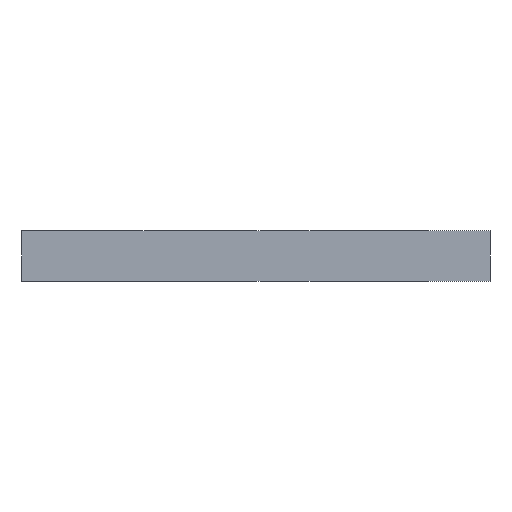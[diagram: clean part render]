
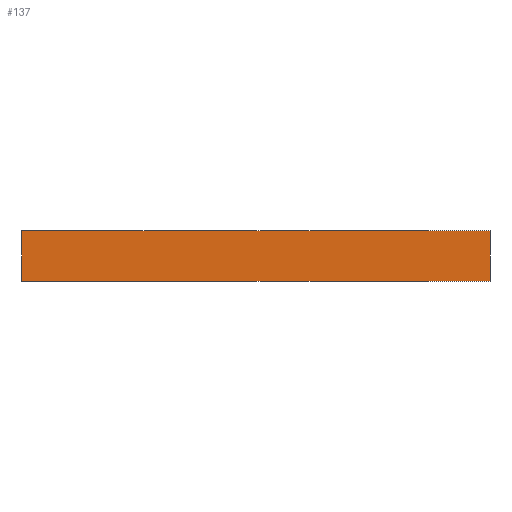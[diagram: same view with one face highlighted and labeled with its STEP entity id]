
A CAD part, front view. The second image highlights one B-rep face of the part: STEP entity #137.
In plain terms, the highlighted planar face has unit normal (0, -1, 0).
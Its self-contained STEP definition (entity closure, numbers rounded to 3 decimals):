
#21 = EDGE_CURVE('',#22,#24,#26,.T.);
#22 = VERTEX_POINT('',#23);
#23 = CARTESIAN_POINT('',(99.,-66.275,0.));
#24 = VERTEX_POINT('',#25);
#25 = CARTESIAN_POINT('',(99.,-66.275,3.));
#26 = SURFACE_CURVE('',#27,(#31,#43),.PCURVE_S1.);
#27 = LINE('',#28,#29);
#28 = CARTESIAN_POINT('',(99.,-66.275,0.));
#29 = VECTOR('',#30,1.);
#30 = DIRECTION('',(0.,0.,1.));
#31 = PCURVE('',#32,#37);
#32 = PLANE('',#33);
#33 = AXIS2_PLACEMENT_3D('',#34,#35,#36);
#34 = CARTESIAN_POINT('',(99.,-66.275,0.));
#35 = DIRECTION('',(1.,0.,0.));
#36 = DIRECTION('',(0.,0.,1.));
#37 = DEFINITIONAL_REPRESENTATION('',(#38),#42);
#38 = LINE('',#39,#40);
#39 = CARTESIAN_POINT('',(0.,0.));
#40 = VECTOR('',#41,1.);
#41 = DIRECTION('',(1.,0.));
#42 = ( GEOMETRIC_REPRESENTATION_CONTEXT(2) 
PARAMETRIC_REPRESENTATION_CONTEXT() REPRESENTATION_CONTEXT('2D SPACE',''
  ) );
#43 = PCURVE('',#44,#49);
#44 = PLANE('',#45);
#45 = AXIS2_PLACEMENT_3D('',#46,#47,#48);
#46 = CARTESIAN_POINT('',(99.,-66.275,0.));
#47 = DIRECTION('',(0.,1.,0.));
#48 = DIRECTION('',(0.,0.,1.));
#49 = DEFINITIONAL_REPRESENTATION('',(#50),#54);
#50 = LINE('',#51,#52);
#51 = CARTESIAN_POINT('',(0.,0.));
#52 = VECTOR('',#53,1.);
#53 = DIRECTION('',(1.,0.));
#54 = ( GEOMETRIC_REPRESENTATION_CONTEXT(2) 
PARAMETRIC_REPRESENTATION_CONTEXT() REPRESENTATION_CONTEXT('2D SPACE',''
  ) );
#72 = PLANE('',#73);
#73 = AXIS2_PLACEMENT_3D('',#74,#75,#76);
#74 = CARTESIAN_POINT('',(99.,-66.275,0.));
#75 = DIRECTION('',(0.,0.,1.));
#76 = DIRECTION('',(1.,0.,0.));
#126 = PLANE('',#127);
#127 = AXIS2_PLACEMENT_3D('',#128,#129,#130);
#128 = CARTESIAN_POINT('',(99.,-66.275,3.));
#129 = DIRECTION('',(0.,0.,1.));
#130 = DIRECTION('',(1.,0.,0.));
#137 = ADVANCED_FACE('',(#138),#44,.F.);
#138 = FACE_BOUND('',#139,.F.);
#139 = EDGE_LOOP('',(#140,#163,#164,#187));
#140 = ORIENTED_EDGE('',*,*,#141,.F.);
#141 = EDGE_CURVE('',#22,#142,#144,.T.);
#142 = VERTEX_POINT('',#143);
#143 = CARTESIAN_POINT('',(127.,-66.275,0.));
#144 = SURFACE_CURVE('',#145,(#149,#156),.PCURVE_S1.);
#145 = LINE('',#146,#147);
#146 = CARTESIAN_POINT('',(99.,-66.275,0.));
#147 = VECTOR('',#148,1.);
#148 = DIRECTION('',(1.,0.,0.));
#149 = PCURVE('',#44,#150);
#150 = DEFINITIONAL_REPRESENTATION('',(#151),#155);
#151 = LINE('',#152,#153);
#152 = CARTESIAN_POINT('',(0.,0.));
#153 = VECTOR('',#154,1.);
#154 = DIRECTION('',(0.,1.));
#155 = ( GEOMETRIC_REPRESENTATION_CONTEXT(2) 
PARAMETRIC_REPRESENTATION_CONTEXT() REPRESENTATION_CONTEXT('2D SPACE',''
  ) );
#156 = PCURVE('',#72,#157);
#157 = DEFINITIONAL_REPRESENTATION('',(#158),#162);
#158 = LINE('',#159,#160);
#159 = CARTESIAN_POINT('',(0.,0.));
#160 = VECTOR('',#161,1.);
#161 = DIRECTION('',(1.,0.));
#162 = ( GEOMETRIC_REPRESENTATION_CONTEXT(2) 
PARAMETRIC_REPRESENTATION_CONTEXT() REPRESENTATION_CONTEXT('2D SPACE',''
  ) );
#163 = ORIENTED_EDGE('',*,*,#21,.T.);
#164 = ORIENTED_EDGE('',*,*,#165,.T.);
#165 = EDGE_CURVE('',#24,#166,#168,.T.);
#166 = VERTEX_POINT('',#167);
#167 = CARTESIAN_POINT('',(127.,-66.275,3.));
#168 = SURFACE_CURVE('',#169,(#173,#180),.PCURVE_S1.);
#169 = LINE('',#170,#171);
#170 = CARTESIAN_POINT('',(99.,-66.275,3.));
#171 = VECTOR('',#172,1.);
#172 = DIRECTION('',(1.,0.,0.));
#173 = PCURVE('',#44,#174);
#174 = DEFINITIONAL_REPRESENTATION('',(#175),#179);
#175 = LINE('',#176,#177);
#176 = CARTESIAN_POINT('',(3.,0.));
#177 = VECTOR('',#178,1.);
#178 = DIRECTION('',(0.,1.));
#179 = ( GEOMETRIC_REPRESENTATION_CONTEXT(2) 
PARAMETRIC_REPRESENTATION_CONTEXT() REPRESENTATION_CONTEXT('2D SPACE',''
  ) );
#180 = PCURVE('',#126,#181);
#181 = DEFINITIONAL_REPRESENTATION('',(#182),#186);
#182 = LINE('',#183,#184);
#183 = CARTESIAN_POINT('',(0.,0.));
#184 = VECTOR('',#185,1.);
#185 = DIRECTION('',(1.,0.));
#186 = ( GEOMETRIC_REPRESENTATION_CONTEXT(2) 
PARAMETRIC_REPRESENTATION_CONTEXT() REPRESENTATION_CONTEXT('2D SPACE',''
  ) );
#187 = ORIENTED_EDGE('',*,*,#188,.F.);
#188 = EDGE_CURVE('',#142,#166,#189,.T.);
#189 = SURFACE_CURVE('',#190,(#194,#201),.PCURVE_S1.);
#190 = LINE('',#191,#192);
#191 = CARTESIAN_POINT('',(127.,-66.275,0.));
#192 = VECTOR('',#193,1.);
#193 = DIRECTION('',(0.,0.,1.));
#194 = PCURVE('',#44,#195);
#195 = DEFINITIONAL_REPRESENTATION('',(#196),#200);
#196 = LINE('',#197,#198);
#197 = CARTESIAN_POINT('',(0.,28.));
#198 = VECTOR('',#199,1.);
#199 = DIRECTION('',(1.,0.));
#200 = ( GEOMETRIC_REPRESENTATION_CONTEXT(2) 
PARAMETRIC_REPRESENTATION_CONTEXT() REPRESENTATION_CONTEXT('2D SPACE',''
  ) );
#201 = PCURVE('',#202,#207);
#202 = PLANE('',#203);
#203 = AXIS2_PLACEMENT_3D('',#204,#205,#206);
#204 = CARTESIAN_POINT('',(127.,-66.275,0.));
#205 = DIRECTION('',(1.,0.,0.));
#206 = DIRECTION('',(0.,0.,1.));
#207 = DEFINITIONAL_REPRESENTATION('',(#208),#212);
#208 = LINE('',#209,#210);
#209 = CARTESIAN_POINT('',(0.,0.));
#210 = VECTOR('',#211,1.);
#211 = DIRECTION('',(1.,0.));
#212 = ( GEOMETRIC_REPRESENTATION_CONTEXT(2) 
PARAMETRIC_REPRESENTATION_CONTEXT() REPRESENTATION_CONTEXT('2D SPACE',''
  ) );
